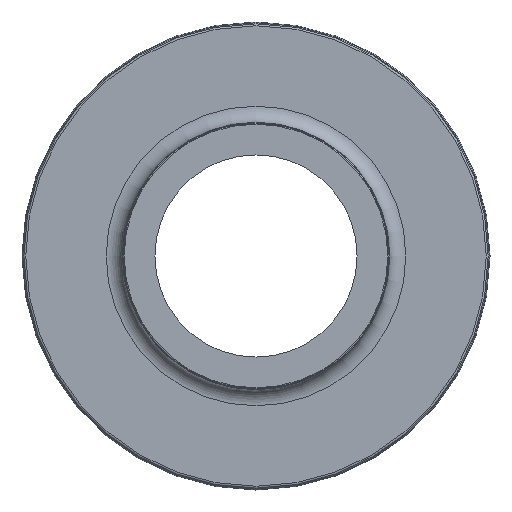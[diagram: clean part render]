
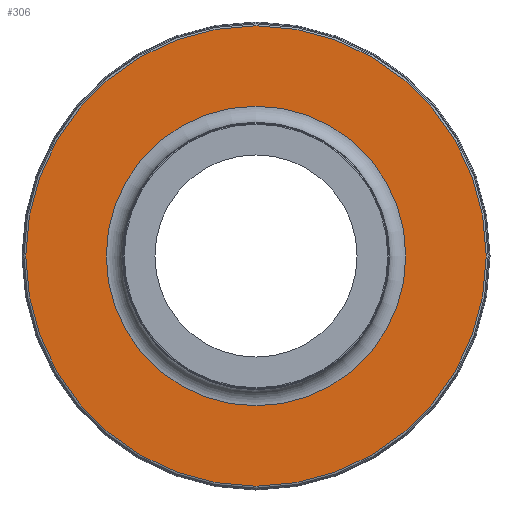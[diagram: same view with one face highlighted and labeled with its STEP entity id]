
A CAD part, front view. The second image highlights one B-rep face of the part: STEP entity #306.
In plain terms, the highlighted planar face has unit normal (0, -1, 0).
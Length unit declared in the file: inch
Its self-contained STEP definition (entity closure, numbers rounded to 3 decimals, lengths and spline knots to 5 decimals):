
#17=FACE_BOUND('',#81,.T.);
#20=PLANE('',#364);
#57=FACE_OUTER_BOUND('',#80,.T.);
#80=EDGE_LOOP('',(#246));
#81=EDGE_LOOP('',(#247));
#110=CIRCLE('',#360,0.86086);
#113=CIRCLE('',#365,0.56);
#142=VERTEX_POINT('',#561);
#144=VERTEX_POINT('',#570);
#176=EDGE_CURVE('',#142,#142,#110,.T.);
#180=EDGE_CURVE('',#144,#144,#113,.T.);
#246=ORIENTED_EDGE('',*,*,#176,.F.);
#247=ORIENTED_EDGE('',*,*,#180,.F.);
#306=ADVANCED_FACE('',(#57,#17),#20,.T.);
#360=AXIS2_PLACEMENT_3D('',#563,#454,#455);
#364=AXIS2_PLACEMENT_3D('',#569,#463,#464);
#365=AXIS2_PLACEMENT_3D('',#571,#465,#466);
#454=DIRECTION('center_axis',(0.,1.,0.));
#455=DIRECTION('ref_axis',(0.,0.,-1.));
#463=DIRECTION('center_axis',(0.,-1.,0.));
#464=DIRECTION('ref_axis',(0.,0.,-1.));
#465=DIRECTION('center_axis',(0.,-1.,0.));
#466=DIRECTION('ref_axis',(0.,0.,-1.));
#561=CARTESIAN_POINT('',(0.,0.305,-0.86086));
#563=CARTESIAN_POINT('Origin',(0.,0.305,0.));
#569=CARTESIAN_POINT('Origin',(0.,0.305,0.875));
#570=CARTESIAN_POINT('',(0.,0.305,-0.56));
#571=CARTESIAN_POINT('Origin',(0.,0.305,0.));
